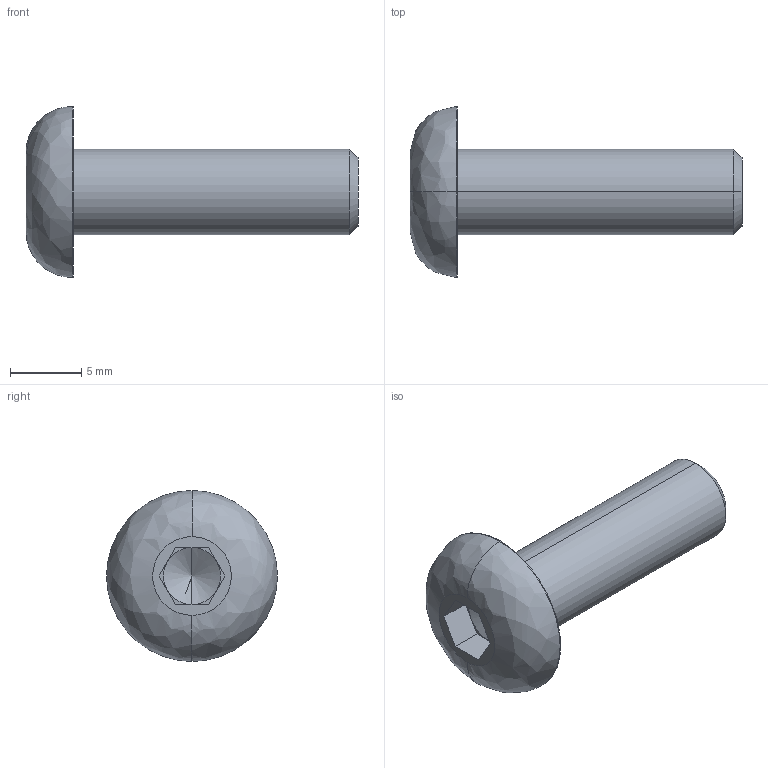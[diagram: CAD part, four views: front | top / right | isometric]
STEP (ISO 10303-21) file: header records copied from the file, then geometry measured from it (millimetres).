
FILE_DESCRIPTION (( 'STEP AP214' ), '1' );
FILE_NAME ('ISO7380_6x20.STEP', '2016-05-18T14:45:11', ( '' ), ( '' ), 'SwSTEP 2.0', 'SolidWorks 2014', '' );
FILE_SCHEMA (( 'AUTOMOTIVE_DESIGN' ));
Length unit declared in the file: millimetre
Products named in the file (1): ISO7380_6x20
Bounding box: 23.3 x 12 x 12 mm (x, y, z)
Volume: 826.2 mm3; surface area: 694.9 mm2
Topology: 1 solids, 1 shells, 28 faces, 62 edges, 36 vertices
Faces by surface type: plane 15, cylinder 7, cone 4, bspline 2
Entity records: 808 total; most frequent: CARTESIAN_POINT 164, DIRECTION 135, ORIENTED_EDGE 120, EDGE_CURVE 60, AXIS2_PLACEMENT_3D 51, VERTEX_POINT 36, VECTOR 33, LINE 33
